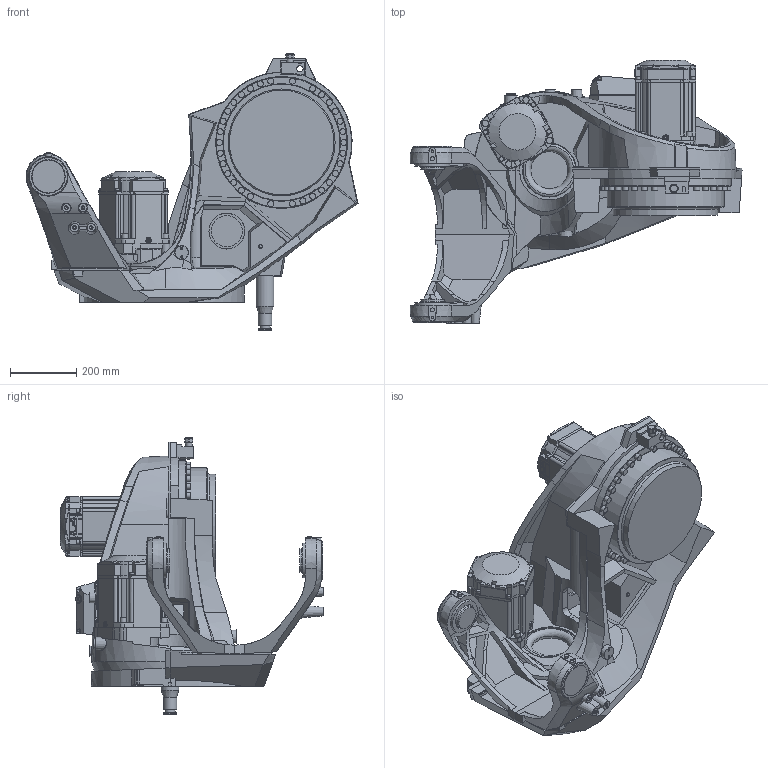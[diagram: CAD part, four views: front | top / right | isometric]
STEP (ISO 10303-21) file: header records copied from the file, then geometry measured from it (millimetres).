
FILE_DESCRIPTION (( 'STEP AP214' ), '1' );
FILE_NAME ('IRB6740-LID_270kg-280_OC_00_LINK01_CAD.step', '2026-05-07T13:14:51', ( '' ), ( '' ), 'SwSTEP 2.0', 'SolidWorks 2024', '' );
FILE_SCHEMA (( 'AUTOMOTIVE_DESIGN' ));
Length unit declared in the file: millimetre
Products named in the file (1): IRB6740-LID_270kg-280_OC_00_LINK01_CAD
Bounding box: 999.93 x 793.6 x 833.5 mm (x, y, z)
Volume: 79614408.5 mm3; surface area: 3099196 mm2
Topology: 1 solids, 12 shells, 1955 faces, 5209 edges, 3383 vertices
Faces by surface type: plane 999, cylinder 328, cone 286, bspline 217, torus 106, sphere 19
Full cylindrical faces by diameter (mm): 2.5 x1, 5 x2, 8 x2, 8.5 x9, 9.5 x4, 10 x8, 11 x2, 12 x3, 13 x8, 16.27 x4, 17 x6, 17.7 x1, 17.9 x1, 18 x1, 18.27 x32, 18.4 x1, 18.63 x1, 19 x5, 19.5 x1, 19.7 x2, 19.93 x1, 20 x3, 20.8 x3, 23 x1, 25 x1, 27 x3, 29 x1, 30 x1, 40 x2, 53 x1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
Entity records: 112311 total; most frequent: CARTESIAN_POINT 47352, ORIENTED_EDGE 9500, DIRECTION 7786, EDGE_CURVE 4750, VERTEX_POINT 3227, AXIS2_PLACEMENT_3D 2828, EDGE_LOOP 2385, FACE_OUTER_BOUND 2133
